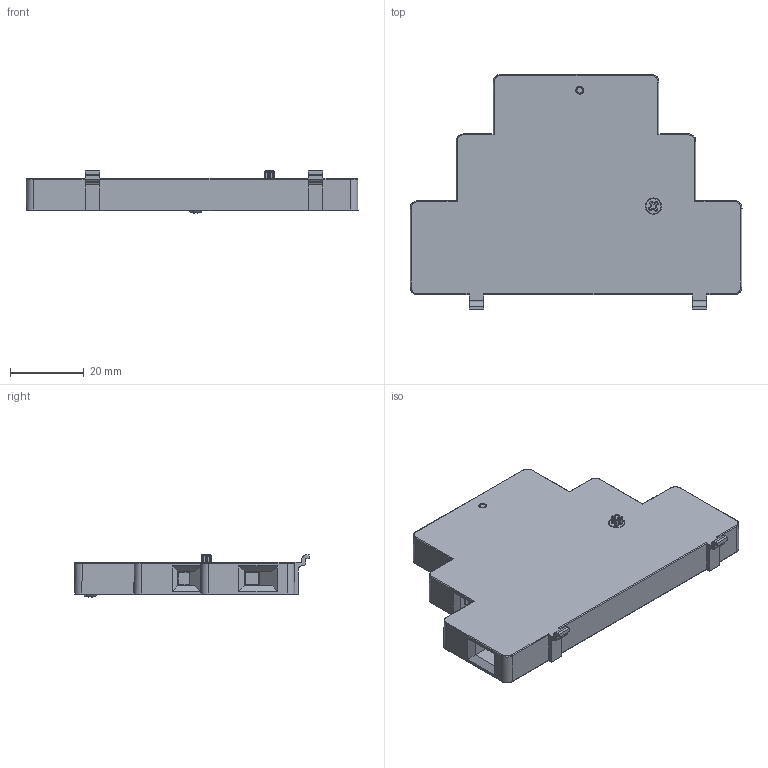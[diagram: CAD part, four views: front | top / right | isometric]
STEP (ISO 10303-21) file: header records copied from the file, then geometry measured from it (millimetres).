
FILE_DESCRIPTION (( 'STEP AP214' ), '1' );
FILE_NAME ('PS-MIG-1100__upr2.step', '2014-09-03T06:33:19', ( '' ), ( '' ), 'SwSTEP 2.0', 'SolidWorks 2011', '' );
FILE_SCHEMA (( 'AUTOMOTIVE_DESIGN' ));
Length unit declared in the file: millimetre
Products named in the file (1): PS-MIG-1100__upr2
Bounding box: 90 x 63.7 x 11.44 mm (x, y, z)
Volume: 35658.3 mm3; surface area: 12908.3 mm2
Topology: 1 solids, 10 shells, 792 faces, 2028 edges, 1281 vertices
Faces by surface type: plane 389, cylinder 177, cone 97, bspline 89, torus 32, sphere 8
Entity records: 40972 total; most frequent: CARTESIAN_POINT 13997, ORIENTED_EDGE 4028, DIRECTION 3415, EDGE_CURVE 2014, VERTEX_POINT 1281, AXIS2_PLACEMENT_3D 1141, VECTOR 1133, LINE 1133
